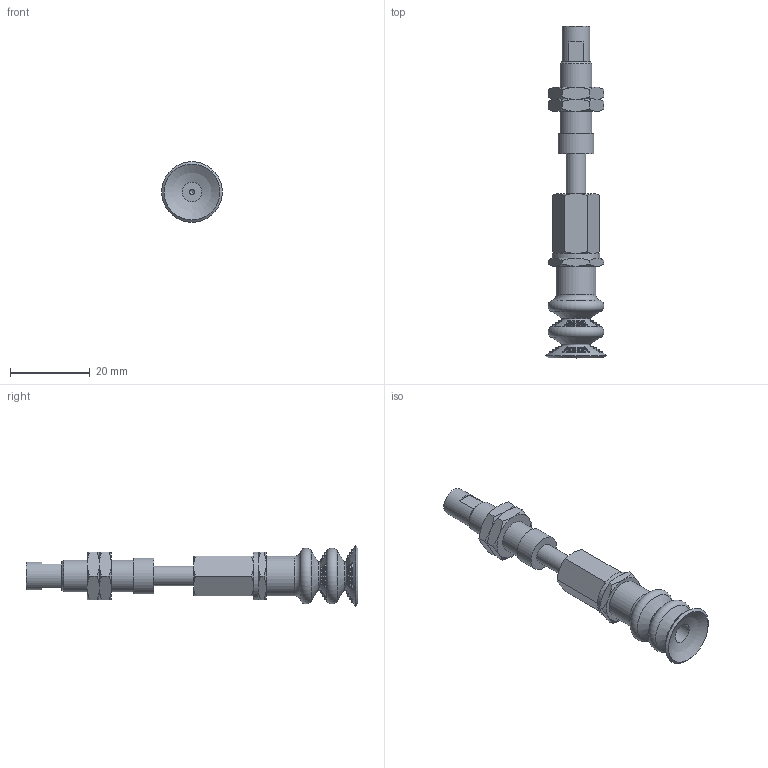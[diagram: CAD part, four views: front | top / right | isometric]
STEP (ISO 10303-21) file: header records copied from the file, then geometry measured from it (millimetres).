
FILE_DESCRIPTION(('STEP AP203'),'1');
FILE_NAME('.stp','2025-08-27T02:13:54',(' '),(' '),'Spatial InterOp 3D',' ',' ');
FILE_SCHEMA(('CONFIG_CONTROL_DESIGN'));
Length unit declared in the file: millimetre
Products named in the file (7): BNABPCTS-15-10-※; ADAPTER; NAPCTS-10-10-MBODY; Adapter_napc-15-T; Nut napc_s-15-10; NAPCTS-15-10-FBODY; BPCG-15-※
Assembly tree (7 placements, depth 2):
  BNABPCTS-15-10-※
    ADAPTER
    NAPCTS-10-10-MBODY
    Adapter_napc-15-T
    Nut napc_s-15-10  x2
    NAPCTS-15-10-FBODY
    BPCG-15-※
Bounding box: 15.2 x 83.2 x 15.2 mm (x, y, z)
Volume: 5581.4 mm3; surface area: 5636.9 mm2
Topology: 7 solids, 7 shells, 220 faces, 657 edges, 422 vertices
Faces by surface type: cone 63, sphere 58, plane 48, torus 34, cylinder 17
Full cylindrical faces by diameter (mm): 1.25 x1, 4.134 x2, 5 x7, 7 x1, 7.188 x2, 8 x1, 9 x1, 10 x1, 12 x1
Entity records: 6307 total; most frequent: CARTESIAN_POINT 1857, DIRECTION 902, ORIENTED_EDGE 758, AXIS2_PLACEMENT_3D 438, EDGE_CURVE 379, EDGE_LOOP 276, VERTEX_POINT 266, CIRCLE 233
